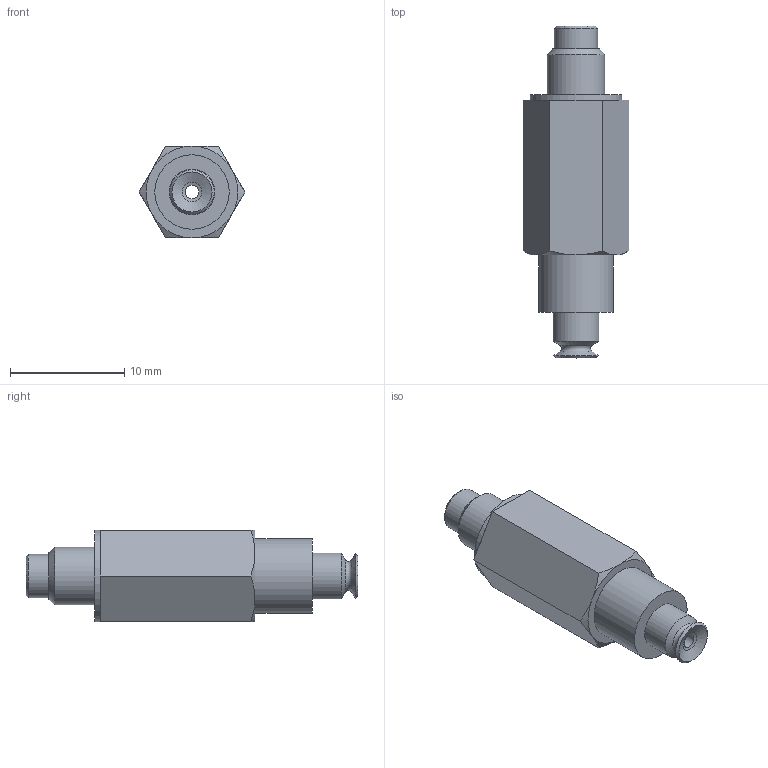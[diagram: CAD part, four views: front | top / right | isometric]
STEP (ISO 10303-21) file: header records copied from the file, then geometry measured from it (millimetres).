
FILE_DESCRIPTION(('STEP AP203'),'1');
FILE_NAME('.stp','2025-04-07T02:34:00',(' '),(' '),'Spatial InterOp 3D',' ',' ');
FILE_SCHEMA(('CONFIG_CONTROL_DESIGN'));
Length unit declared in the file: millimetre
Products named in the file (4): BPSS-S5-BPFG-3.5A-※; PSS-S5-PFG-1.5A M body; PSS-S5-PFG-1.5A F body; BPFG-3.5A-※
Assembly tree (3 placements, depth 2):
  BPSS-S5-BPFG-3.5A-※
    PSS-S5-PFG-1.5A M body
    PSS-S5-PFG-1.5A F body
    BPFG-3.5A-※
Bounding box: 9.24 x 29 x 8 mm (x, y, z)
Volume: 918.7 mm3; surface area: 1445.2 mm2
Topology: 3 solids, 3 shells, 62 faces, 119 edges, 71 vertices
Faces by surface type: plane 26, cylinder 15, cone 12, torus 8, bspline 1
Full cylindrical faces by diameter (mm): 1.2 x2, 2 x2, 2.5 x2, 3 x2, 3.5 x1, 3.8 x1, 4 x1, 5 x1, 6.5 x2, 8 x1
Entity records: 1607 total; most frequent: CARTESIAN_POINT 269, DIRECTION 258, ORIENTED_EDGE 170, AXIS2_PLACEMENT_3D 120, EDGE_LOOP 106, FACE_OUTER_BOUND 86, EDGE_CURVE 85, VERTEX_POINT 67
